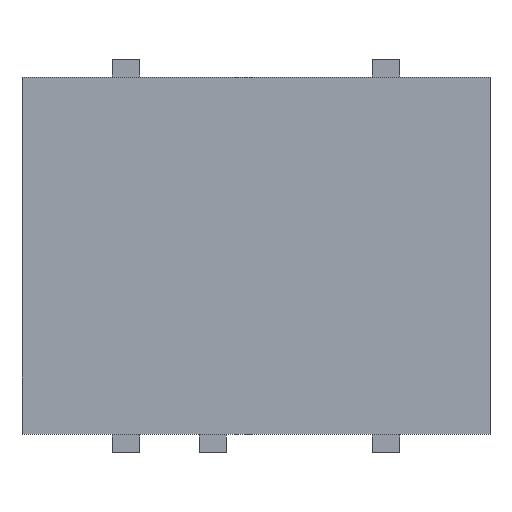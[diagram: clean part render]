
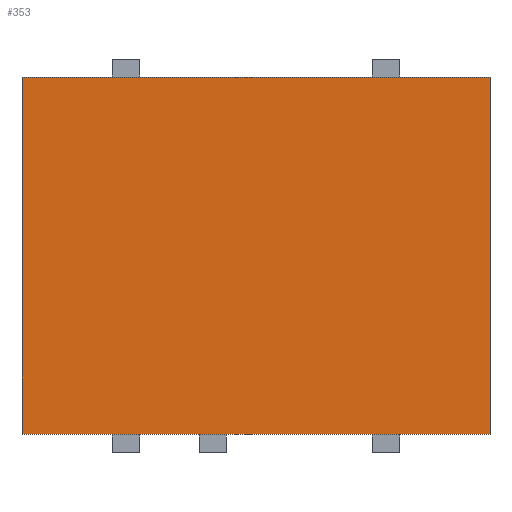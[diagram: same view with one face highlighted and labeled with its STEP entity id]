
A CAD part, top view. The second image highlights one B-rep face of the part: STEP entity #353.
In plain terms, the highlighted planar face has unit normal (0, 0, 1).
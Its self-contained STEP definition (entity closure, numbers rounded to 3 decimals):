
#39 = VERTEX_POINT('',#40);
#40 = CARTESIAN_POINT('',(-6.86,-5.23,4.51));
#47 = PLANE('',#48);
#48 = AXIS2_PLACEMENT_3D('',#49,#50,#51);
#49 = CARTESIAN_POINT('',(-6.86,-5.23,0.));
#50 = DIRECTION('',(0.,1.,0.));
#51 = DIRECTION('',(1.,0.,0.));
#59 = PLANE('',#60);
#60 = AXIS2_PLACEMENT_3D('',#61,#62,#63);
#61 = CARTESIAN_POINT('',(-6.86,5.23,0.));
#62 = DIRECTION('',(1.,0.,-0.));
#63 = DIRECTION('',(0.,-1.,0.));
#71 = EDGE_CURVE('',#39,#72,#74,.T.);
#72 = VERTEX_POINT('',#73);
#73 = CARTESIAN_POINT('',(6.86,-5.23,4.51));
#74 = SURFACE_CURVE('',#75,(#79,#86),.PCURVE_S1.);
#75 = LINE('',#76,#77);
#76 = CARTESIAN_POINT('',(-6.86,-5.23,4.51));
#77 = VECTOR('',#78,1.);
#78 = DIRECTION('',(1.,0.,0.));
#79 = PCURVE('',#47,#80);
#80 = DEFINITIONAL_REPRESENTATION('',(#81),#85);
#81 = LINE('',#82,#83);
#82 = CARTESIAN_POINT('',(0.,-4.51));
#83 = VECTOR('',#84,1.);
#84 = DIRECTION('',(1.,0.));
#85 = ( GEOMETRIC_REPRESENTATION_CONTEXT(2) 
PARAMETRIC_REPRESENTATION_CONTEXT() REPRESENTATION_CONTEXT('2D SPACE',''
  ) );
#86 = PCURVE('',#87,#92);
#87 = PLANE('',#88);
#88 = AXIS2_PLACEMENT_3D('',#89,#90,#91);
#89 = CARTESIAN_POINT('',(0.,0.,4.51));
#90 = DIRECTION('',(0.,0.,1.));
#91 = DIRECTION('',(0.,1.,0.));
#92 = DEFINITIONAL_REPRESENTATION('',(#93),#97);
#93 = LINE('',#94,#95);
#94 = CARTESIAN_POINT('',(-5.23,6.86));
#95 = VECTOR('',#96,1.);
#96 = DIRECTION('',(0.,-1.));
#97 = ( GEOMETRIC_REPRESENTATION_CONTEXT(2) 
PARAMETRIC_REPRESENTATION_CONTEXT() REPRESENTATION_CONTEXT('2D SPACE',''
  ) );
#115 = PLANE('',#116);
#116 = AXIS2_PLACEMENT_3D('',#117,#118,#119);
#117 = CARTESIAN_POINT('',(6.86,-5.23,0.));
#118 = DIRECTION('',(-1.,0.,0.));
#119 = DIRECTION('',(0.,1.,0.));
#157 = EDGE_CURVE('',#72,#158,#160,.T.);
#158 = VERTEX_POINT('',#159);
#159 = CARTESIAN_POINT('',(6.86,5.23,4.51));
#160 = SURFACE_CURVE('',#161,(#165,#172),.PCURVE_S1.);
#161 = LINE('',#162,#163);
#162 = CARTESIAN_POINT('',(6.86,-5.23,4.51));
#163 = VECTOR('',#164,1.);
#164 = DIRECTION('',(0.,1.,0.));
#165 = PCURVE('',#115,#166);
#166 = DEFINITIONAL_REPRESENTATION('',(#167),#171);
#167 = LINE('',#168,#169);
#168 = CARTESIAN_POINT('',(0.,-4.51));
#169 = VECTOR('',#170,1.);
#170 = DIRECTION('',(1.,0.));
#171 = ( GEOMETRIC_REPRESENTATION_CONTEXT(2) 
PARAMETRIC_REPRESENTATION_CONTEXT() REPRESENTATION_CONTEXT('2D SPACE',''
  ) );
#172 = PCURVE('',#87,#173);
#173 = DEFINITIONAL_REPRESENTATION('',(#174),#178);
#174 = LINE('',#175,#176);
#175 = CARTESIAN_POINT('',(-5.23,-6.86));
#176 = VECTOR('',#177,1.);
#177 = DIRECTION('',(1.,0.));
#178 = ( GEOMETRIC_REPRESENTATION_CONTEXT(2) 
PARAMETRIC_REPRESENTATION_CONTEXT() REPRESENTATION_CONTEXT('2D SPACE',''
  ) );
#196 = PLANE('',#197);
#197 = AXIS2_PLACEMENT_3D('',#198,#199,#200);
#198 = CARTESIAN_POINT('',(6.86,5.23,0.));
#199 = DIRECTION('',(0.,-1.,0.));
#200 = DIRECTION('',(-1.,0.,0.));
#233 = EDGE_CURVE('',#158,#234,#236,.T.);
#234 = VERTEX_POINT('',#235);
#235 = CARTESIAN_POINT('',(-6.86,5.23,4.51));
#236 = SURFACE_CURVE('',#237,(#241,#248),.PCURVE_S1.);
#237 = LINE('',#238,#239);
#238 = CARTESIAN_POINT('',(6.86,5.23,4.51));
#239 = VECTOR('',#240,1.);
#240 = DIRECTION('',(-1.,0.,0.));
#241 = PCURVE('',#196,#242);
#242 = DEFINITIONAL_REPRESENTATION('',(#243),#247);
#243 = LINE('',#244,#245);
#244 = CARTESIAN_POINT('',(0.,-4.51));
#245 = VECTOR('',#246,1.);
#246 = DIRECTION('',(1.,0.));
#247 = ( GEOMETRIC_REPRESENTATION_CONTEXT(2) 
PARAMETRIC_REPRESENTATION_CONTEXT() REPRESENTATION_CONTEXT('2D SPACE',''
  ) );
#248 = PCURVE('',#87,#249);
#249 = DEFINITIONAL_REPRESENTATION('',(#250),#254);
#250 = LINE('',#251,#252);
#251 = CARTESIAN_POINT('',(5.23,-6.86));
#252 = VECTOR('',#253,1.);
#253 = DIRECTION('',(0.,1.));
#254 = ( GEOMETRIC_REPRESENTATION_CONTEXT(2) 
PARAMETRIC_REPRESENTATION_CONTEXT() REPRESENTATION_CONTEXT('2D SPACE',''
  ) );
#304 = EDGE_CURVE('',#234,#39,#305,.T.);
#305 = SURFACE_CURVE('',#306,(#310,#317),.PCURVE_S1.);
#306 = LINE('',#307,#308);
#307 = CARTESIAN_POINT('',(-6.86,5.23,4.51));
#308 = VECTOR('',#309,1.);
#309 = DIRECTION('',(0.,-1.,0.));
#310 = PCURVE('',#59,#311);
#311 = DEFINITIONAL_REPRESENTATION('',(#312),#316);
#312 = LINE('',#313,#314);
#313 = CARTESIAN_POINT('',(0.,-4.51));
#314 = VECTOR('',#315,1.);
#315 = DIRECTION('',(1.,0.));
#316 = ( GEOMETRIC_REPRESENTATION_CONTEXT(2) 
PARAMETRIC_REPRESENTATION_CONTEXT() REPRESENTATION_CONTEXT('2D SPACE',''
  ) );
#317 = PCURVE('',#87,#318);
#318 = DEFINITIONAL_REPRESENTATION('',(#319),#323);
#319 = LINE('',#320,#321);
#320 = CARTESIAN_POINT('',(5.23,6.86));
#321 = VECTOR('',#322,1.);
#322 = DIRECTION('',(-1.,0.));
#323 = ( GEOMETRIC_REPRESENTATION_CONTEXT(2) 
PARAMETRIC_REPRESENTATION_CONTEXT() REPRESENTATION_CONTEXT('2D SPACE',''
  ) );
#353 = ADVANCED_FACE('',(#354),#87,.T.);
#354 = FACE_BOUND('',#355,.T.);
#355 = EDGE_LOOP('',(#356,#357,#358,#359));
#356 = ORIENTED_EDGE('',*,*,#71,.T.);
#357 = ORIENTED_EDGE('',*,*,#157,.T.);
#358 = ORIENTED_EDGE('',*,*,#233,.T.);
#359 = ORIENTED_EDGE('',*,*,#304,.T.);
